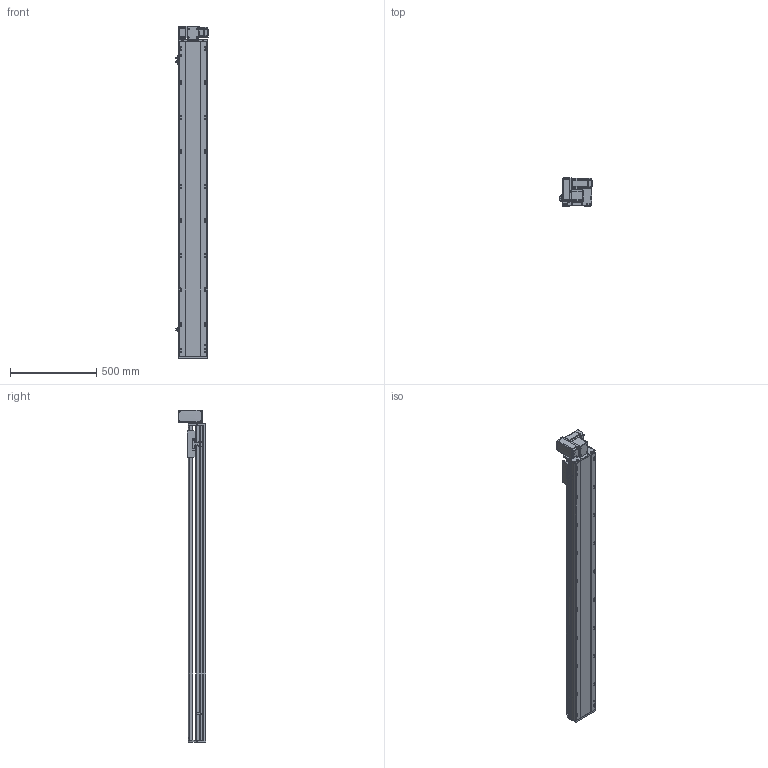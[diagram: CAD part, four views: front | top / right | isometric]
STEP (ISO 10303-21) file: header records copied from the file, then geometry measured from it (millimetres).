
FILE_DESCRIPTION (( 'STEP AP214' ), '1' );
FILE_NAME ('RTB17S-XX-1550-LW-M40-C4.STEP', '2025-12-11T07:09:03', ( '' ), ( '' ), 'SwSTEP 2.0', 'SolidWorks 2018', '' );
FILE_SCHEMA (( 'AUTOMOTIVE_DESIGN' ));
Length unit declared in the file: millimetre
Products named in the file (14): RTB14-L-008-M20--萇儂啣^RTB17S-LW-々湍釱蚾饜-400W_RTB17S-XX-XX-LW-M40-C4; RTB17S-XX-1550-LW-M40-C4; RTB14-L-005P--轴承塑胶压盖^RTB17S-LW-皮带座装配-400W_RTB17S-XX-XX-LW-M40-C4; 400W侜督萇儂^RTB17S-XX-XX-LW-M40-C4; RTB17S-L-014-T20--々湍釱^RTB17S-LW-々湍釱蚾饜-400W_RTB17S-XX-XX-LW-M40-C4; RTB17S-L-001耜醱啣^RTB17S-XX-XX-LW-M40-C4; RTB17S-L-004佪裝蹟譫蟀諉釱^RTB17S-XX-XX-LW-M40-C4; RTB14-L-017P^RTB17S-LW-々湍釱蚾饜-400W_RTB17S-XX-XX-LW-M40-C4; RTH13-BL-012覜茼え俋离^RTB17S-XX-XX-LW-M40-C4; RTB17S-LW-々湍釱蚾饜-400W^RTB17S-XX-XX-LW-M40-C4; OMRON EE-SX672 传感器^RTB17S-XX-XX-LW-M40-C4; RTB14-L-018P^RTB17S-LW-々湍釱蚾饜-400W_RTB17S-XX-XX-LW-M40-C4; RTB17-R-011菁釱^RTB17S-XX-XX-LW-M40-C4; RTB17S-L-007奻裔^RTB17S-XX-XX-LW-M40-C4
Assembly tree (16 placements, depth 3):
  RTB17S-XX-1550-LW-M40-C4
    RTB17-R-011菁釱^RTB17S-XX-XX-LW-M40-C4
    RTB17S-L-007奻裔^RTB17S-XX-XX-LW-M40-C4
    OMRON EE-SX672 传感器^RTB17S-XX-XX-LW-M40-C4  x3
    RTB17S-L-001耜醱啣^RTB17S-XX-XX-LW-M40-C4
    400W侜督萇儂^RTB17S-XX-XX-LW-M40-C4
    RTB17S-L-004佪裝蹟譫蟀諉釱^RTB17S-XX-XX-LW-M40-C4
    RTH13-BL-012覜茼え俋离^RTB17S-XX-XX-LW-M40-C4
    RTB17S-LW-々湍釱蚾饜-400W^RTB17S-XX-XX-LW-M40-C4
      RTB17S-L-014-T20--々湍釱^RTB17S-LW-々湍釱蚾饜-400W_RTB17S-XX-XX-LW-M40-C4
      RTB14-L-005P--轴承塑胶压盖^RTB17S-LW-皮带座装配-400W_RTB17S-XX-XX-LW-M40-C4
      RTB14-L-008-M20--萇儂啣^RTB17S-LW-々湍釱蚾饜-400W_RTB17S-XX-XX-LW-M40-C4
      RTB14-L-017P^RTB17S-LW-々湍釱蚾饜-400W_RTB17S-XX-XX-LW-M40-C4  x2
      RTB14-L-018P^RTB17S-LW-々湍釱蚾饜-400W_RTB17S-XX-XX-LW-M40-C4
Bounding box: 186 x 160.5 x 1922.5 mm (x, y, z)
Volume: 16859563.8 mm3; surface area: 1987175.1 mm2
Topology: 15 solids, 15 shells, 2253 faces, 6249 edges, 4077 vertices
Faces by surface type: plane 1074, cylinder 731, bspline 301, cone 139, torus 8
Entity records: 64937 total; most frequent: CARTESIAN_POINT 18254, ORIENTED_EDGE 9342, DIRECTION 8666, EDGE_CURVE 4671, VERTEX_POINT 3065, AXIS2_PLACEMENT_3D 2995, LINE 2676, VECTOR 2676
